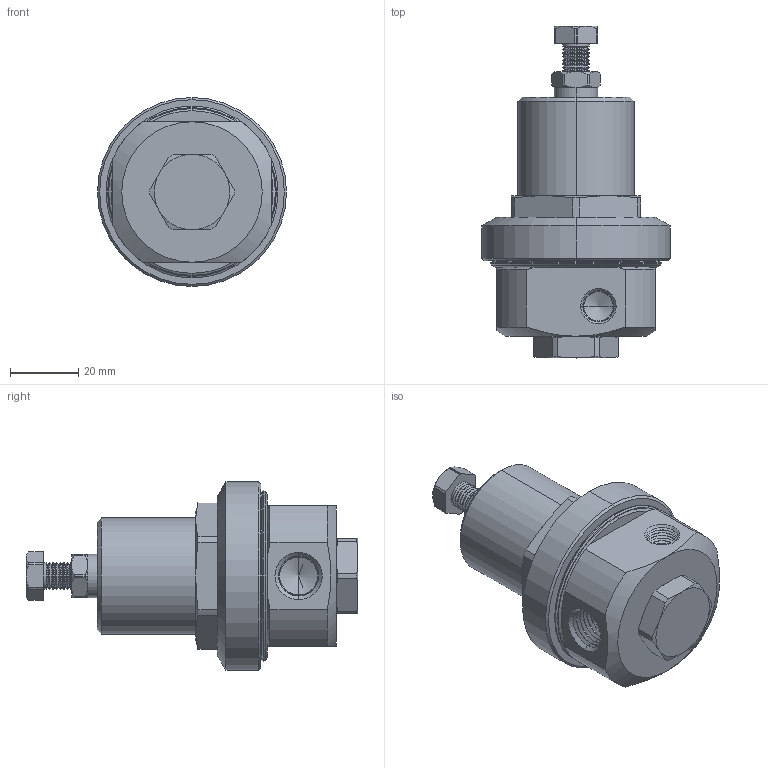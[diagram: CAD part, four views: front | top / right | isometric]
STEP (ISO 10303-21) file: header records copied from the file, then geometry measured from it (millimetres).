
FILE_DESCRIPTION (( 'STEP AP203' ), '1' );
FILE_NAME ('FLR-250.STEP', '2022-04-20T13:03:09', ( '' ), ( '' ), 'SwSTEP 2.0', 'SolidWorks 2020', '' );
FILE_SCHEMA (( 'CONFIG_CONTROL_DESIGN' ));
Length unit declared in the file: inch
Products named in the file (2): FLR-250; Part16^FLR-250-X-XXX_CM
Assembly tree (1 placements, depth 2):
  FLR-250
    Part16^FLR-250-X-XXX_CM
Bounding box: 55.55 x 97.56 x 55.55 mm (x, y, z)
Volume: 103720.5 mm3; surface area: 17967.2 mm2
Topology: 1 solids, 1 shells, 465 faces, 1041 edges, 582 vertices
Faces by surface type: cone 314, cylinder 103, plane 48
Entity records: 13001 total; most frequent: CARTESIAN_POINT 2406, DIRECTION 2389, ORIENTED_EDGE 2066, EDGE_CURVE 1033, AXIS2_PLACEMENT_3D 973, VERTEX_POINT 582, CIRCLE 504, EDGE_LOOP 477
